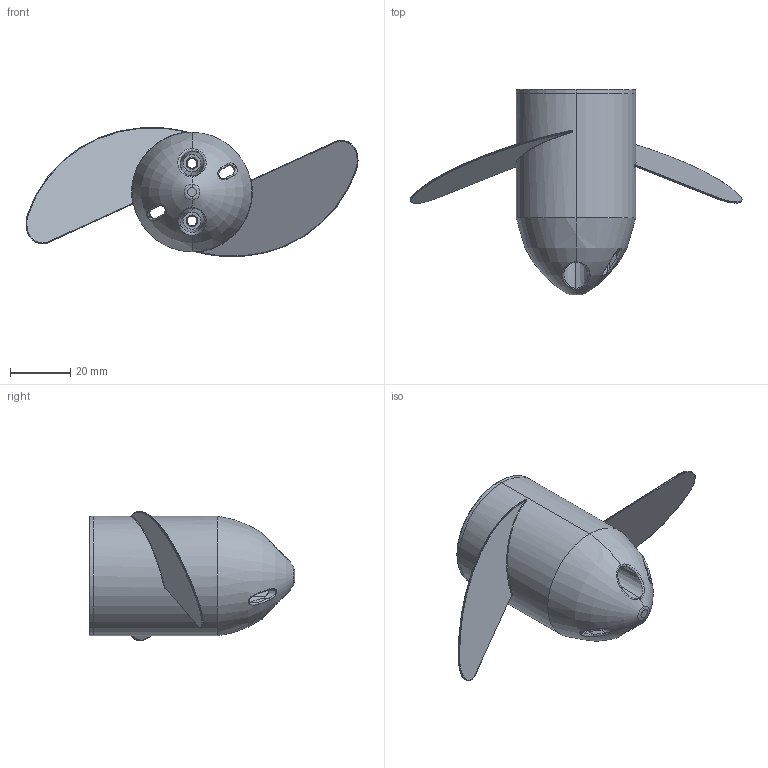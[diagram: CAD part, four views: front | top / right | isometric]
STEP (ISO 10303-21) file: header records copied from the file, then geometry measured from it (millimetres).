
FILE_DESCRIPTION (( 'STEP AP214' ), '1' );
FILE_NAME ('PUB-BR-101303-001_RevC.STEP', '2023-06-16T23:40:43', ( '' ), ( '' ), 'SwSTEP 2.0', 'SolidWorks 2022', '' );
FILE_SCHEMA (( 'AUTOMOTIVE_DESIGN' ));
Length unit declared in the file: millimetre
Products named in the file (1): PUB-BR-101303-001_RevC
Bounding box: 109.84 x 68 x 42.57 mm (x, y, z)
Volume: 18586.5 mm3; surface area: 24501.9 mm2
Topology: 1 solids, 1 shells, 471 faces, 1174 edges, 672 vertices
Faces by surface type: bspline 176, torus 94, cylinder 65, plane 63, cone 61, sphere 12
Entity records: 19282 total; most frequent: CARTESIAN_POINT 9832, ORIENTED_EDGE 2248, DIRECTION 1688, EDGE_CURVE 1124, AXIS2_PLACEMENT_3D 768, VERTEX_POINT 658, EDGE_LOOP 482, CIRCLE 472
